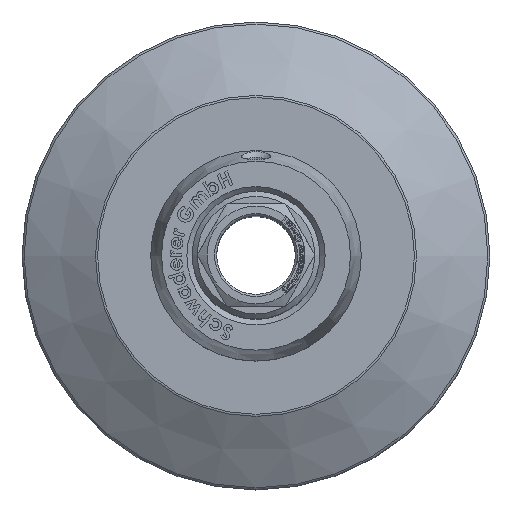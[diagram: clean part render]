
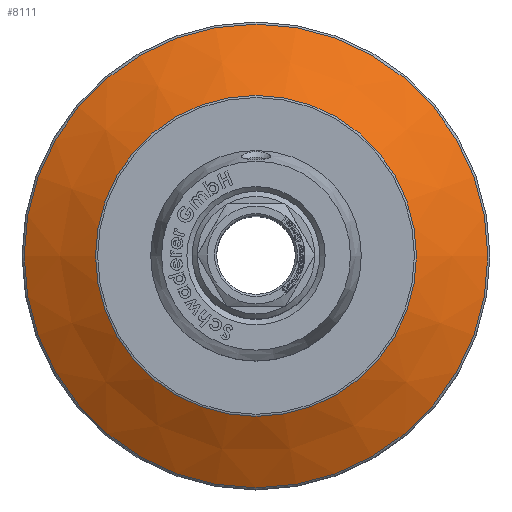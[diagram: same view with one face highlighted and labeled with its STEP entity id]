
A CAD part, top view. The second image highlights one B-rep face of the part: STEP entity #8111.
In plain terms, the highlighted conical face has half-angle 60.255 degrees and reference radius 46.25 mm.
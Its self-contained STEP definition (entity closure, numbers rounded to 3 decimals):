
#2411=CONICAL_SURFACE('',#8597,46.25,60.255);
#2429=FACE_BOUND('',#2995,.T.);
#2514=FACE_OUTER_BOUND('',#2994,.T.);
#2994=EDGE_LOOP('',(#5669));
#2995=EDGE_LOOP('',(#5670));
#3556=CIRCLE('',#8595,37.731);
#3558=CIRCLE('',#8598,54.496);
#3623=VERTEX_POINT('',#10422);
#3625=VERTEX_POINT('',#10427);
#4447=EDGE_CURVE('',#3623,#3623,#3556,.T.);
#4449=EDGE_CURVE('',#3625,#3625,#3558,.T.);
#5669=ORIENTED_EDGE('',*,*,#4449,.F.);
#5670=ORIENTED_EDGE('',*,*,#4447,.F.);
#8111=ADVANCED_FACE('',(#2514,#2429),#2411,.T.);
#8595=AXIS2_PLACEMENT_3D('',#10423,#8956,#8957);
#8597=AXIS2_PLACEMENT_3D('',#10426,#8960,#8961);
#8598=AXIS2_PLACEMENT_3D('',#10428,#8962,#8963);
#8956=DIRECTION('center_axis',(0.,0.,
1.));
#8957=DIRECTION('ref_axis',(-1.,0.,0.));
#8960=DIRECTION('center_axis',(0.,0.,-1.));
#8961=DIRECTION('ref_axis',(1.,0.,0.));
#8962=DIRECTION('center_axis',(0.,0.,
-1.));
#8963=DIRECTION('ref_axis',(-1.,0.,0.));
#10422=CARTESIAN_POINT('',(37.731,0.,-23.999));
#10423=CARTESIAN_POINT('Origin',(0.,0.,
-23.999));
#10426=CARTESIAN_POINT('Origin',(0.,0.,-28.867));
#10427=CARTESIAN_POINT('',(54.496,0.,-33.579));
#10428=CARTESIAN_POINT('Origin',(0.,0.,
-33.579));
